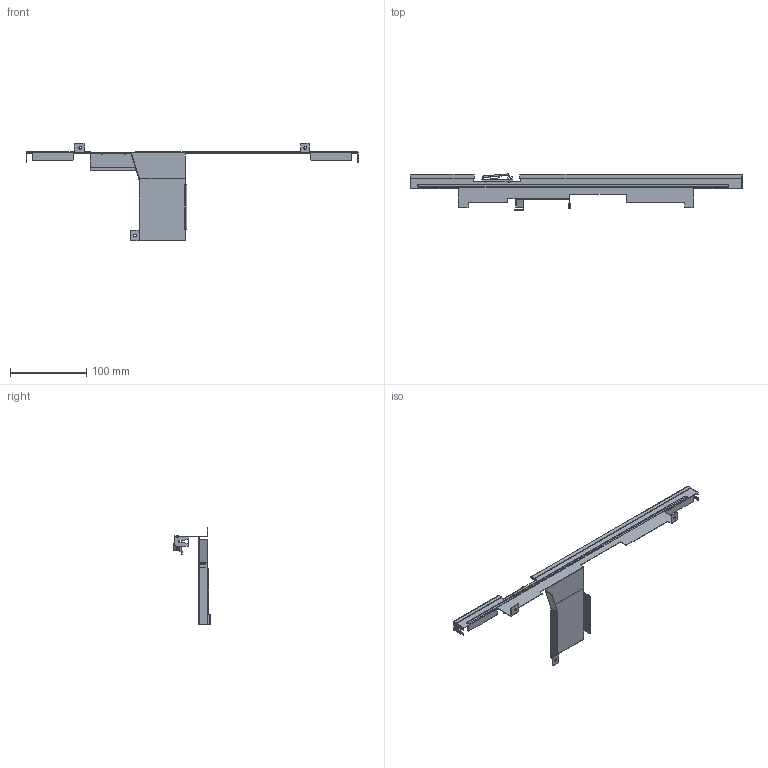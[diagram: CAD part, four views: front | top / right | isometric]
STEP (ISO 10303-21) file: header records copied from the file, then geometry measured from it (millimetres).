
FILE_DESCRIPTION((''),'2;1');
FILE_NAME('123700000208A_BAFFLE_CPU_BOARD_ASM','2019-07-31T',('curtis_chen'),(''),'PRO/ENGINEER BY PARAMETRIC TECHNOLOGY CORPORATION, 2012480','PRO/ENGINEER BY PARAMETRIC TECHNOLOGY CORPORATION, 2012480','');
FILE_SCHEMA(('AUTOMOTIVE_DESIGN { 1 0 10303 214 1 1 1 1 }'));
Length unit declared in the file: millimetre
Products named in the file (6): BAFFLE_CPU; INSULATOR; SPONGE_BAFFLE-1; SPONGE_BAFFLE-2; 125500001100A-CABLE-CLAMP-FCE-1; 123700000208A_BAFFLE_CPU_BOARD_ASM
Assembly tree (5 placements, depth 2):
  123700000208A_BAFFLE_CPU_BOARD_ASM
    BAFFLE_CPU
    INSULATOR
    SPONGE_BAFFLE-1
    SPONGE_BAFFLE-2
    125500001100A-CABLE-CLAMP-FCE-1
Bounding box: 435.39 x 47.48 x 128.4 mm (x, y, z)
Volume: 22996.5 mm3; surface area: 78272 mm2
Topology: 6 solids, 6 shells, 332 faces, 823 edges, 509 vertices
Faces by surface type: plane 238, cylinder 85, cone 8, bspline 1
Entity records: 12197 total; most frequent: CARTESIAN_POINT 1784, DIRECTION 1663, ORIENTED_EDGE 1646, EDGE_CURVE 823, VECTOR 637, LINE 637, PRESENTATION_STYLE_ASSIGNMENT 562, STYLED_ITEM 562
